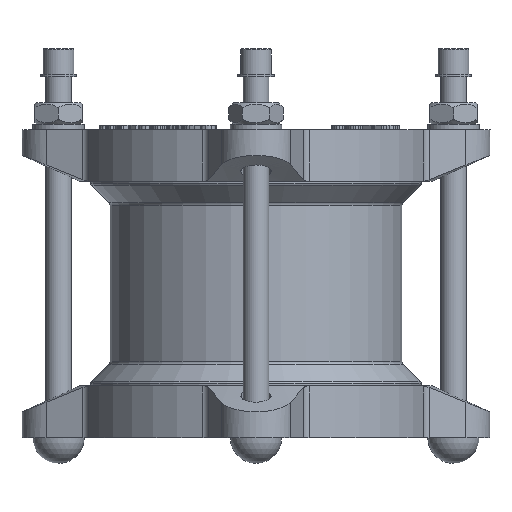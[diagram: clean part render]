
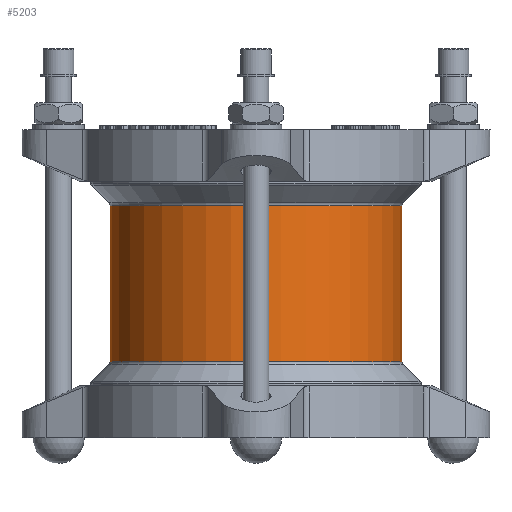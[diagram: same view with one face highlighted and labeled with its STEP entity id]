
A CAD part, front view. The second image highlights one B-rep face of the part: STEP entity #5203.
In plain terms, the highlighted cylindrical face has radius 68 mm (diameter 136 mm), a full revolution.
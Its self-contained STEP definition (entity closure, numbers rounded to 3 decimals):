
#5203=ADVANCED_FACE('',(#9659,#9661),#9663,.T.);
#9659=FACE_OUTER_BOUND('',#9660,.T.);
#9660=EDGE_LOOP('',(#14431));
#9661=FACE_OUTER_BOUND('',#9662,.T.);
#9662=EDGE_LOOP('',(#14432));
#9663=CYLINDRICAL_SURFACE('',#9664,68.);
#9664=AXIS2_PLACEMENT_3D('',#9665,#9666,#9667);
#9665=CARTESIAN_POINT('',(0.,0.,37.172));
#9666=DIRECTION('',(0.,0.,-1.));
#9667=DIRECTION('',(0.,1.,0.));
#14431=ORIENTED_EDGE('',*,*,#16467,.T.);
#14432=ORIENTED_EDGE('',*,*,#16468,.F.);
#16467=EDGE_CURVE('',#19209,#19209,#19210,.T.);
#16468=EDGE_CURVE('',#19211,#19211,#19212,.T.);
#19209=VERTEX_POINT('',#27756);
#19210=CIRCLE('',#27757,68.);
#19211=VERTEX_POINT('',#27761);
#19212=CIRCLE('',#27762,68.);
#27756=CARTESIAN_POINT('',(0.,68.,36.343));
#27757=AXIS2_PLACEMENT_3D('',#27758,#27759,#27760);
#27758=CARTESIAN_POINT('',(0.,0.,36.343));
#27759=DIRECTION('',(0.,0.,-1.));
#27760=DIRECTION('',(0.,1.,0.));
#27761=CARTESIAN_POINT('',(0.,68.,-36.343));
#27762=AXIS2_PLACEMENT_3D('',#27763,#27764,#27765);
#27763=CARTESIAN_POINT('',(0.,0.,-36.343));
#27764=DIRECTION('',(0.,0.,-1.));
#27765=DIRECTION('',(0.,1.,0.));
